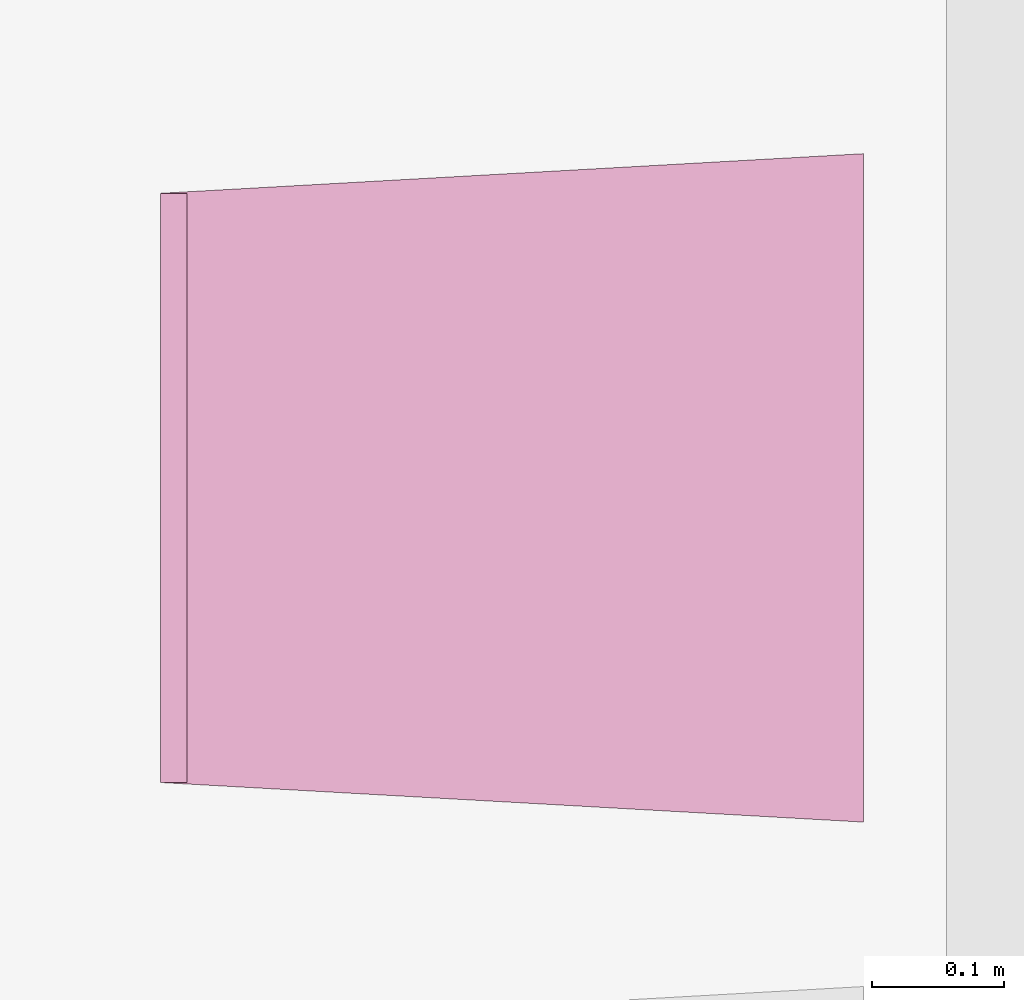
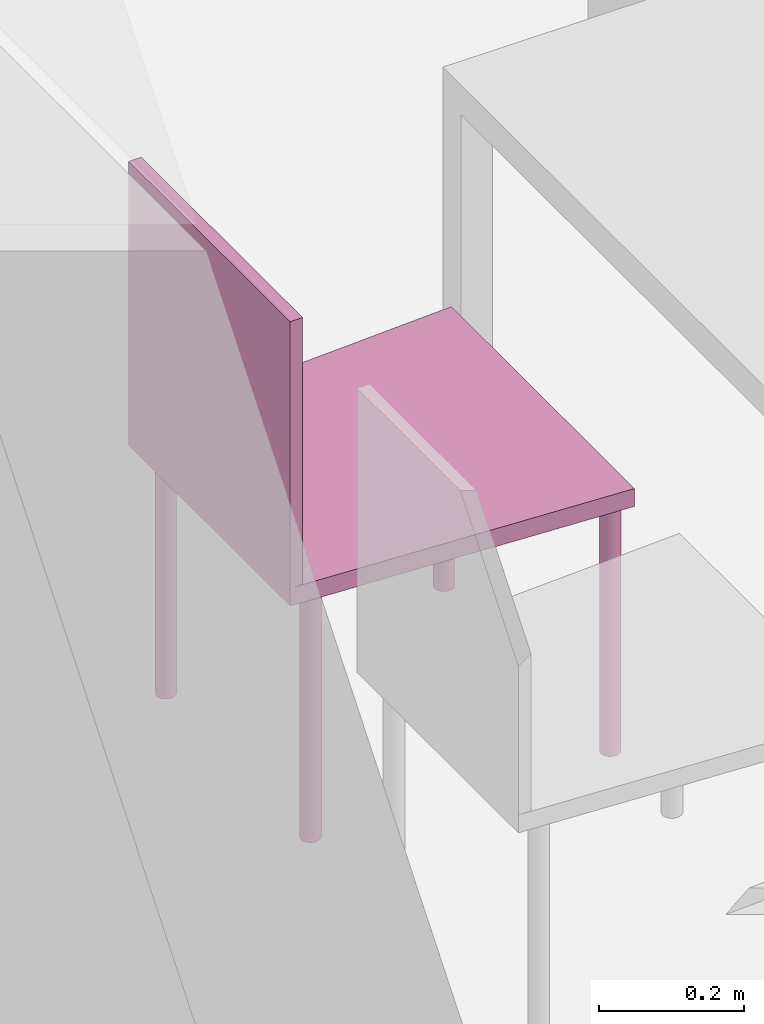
"""IFC4 building model written with IfcOpenShell, lengths in metres."""

from ifc_helpers import new_model, entity, si_unit, converted_unit, derived_unit, frame, origin, place, context, subcontext, project, spatial, faceted_brep, element, save


model = new_model("IFC4")

# Units and contexts
model_context = context("Model", 3, precision=1e-05, world=origin())
body_context = subcontext(model_context, "Body", "Model", "MODEL_VIEW")
ifc_project = project(units=[si_unit("LENGTHUNIT", "METRE"), si_unit("AREAUNIT", "SQUARE_METRE"), si_unit("VOLUMEUNIT", "CUBIC_METRE"), si_unit("MASSUNIT", "GRAM", prefix="KILO"), converted_unit("PLANEANGLEUNIT", "DEGREE", entity("IfcPlaneAngleMeasure", 0.0174532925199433), si_unit("PLANEANGLEUNIT", "RADIAN"), dimensions=[0, 0, 0, 0, 0, 0, 0]), derived_unit("THERMALTRANSMITTANCEUNIT", [(si_unit("POWERUNIT", "WATT"), 1), (si_unit("THERMODYNAMICTEMPERATUREUNIT", "KELVIN"), -1), (si_unit("LENGTHUNIT", "METRE"), -2)]), derived_unit("VOLUMETRICFLOWRATEUNIT", [(si_unit("LENGTHUNIT", "METRE"), 3), (converted_unit("TIMEUNIT", "hour", entity("IfcTimeMeasure", 3600.0), si_unit("TIMEUNIT", "SECOND"), dimensions=[0, 0, 1, 0, 0, 0, 0]), -1), (si_unit("LENGTHUNIT", "METRE"), -1)])], contexts=[model_context])

# Building, storeys
building_placement = place(None, origin())
building = spatial("IfcBuilding", under=ifc_project, at=building_placement, Name="HABITATGE PLURIFAMILIAR", CompositionType="ELEMENT")
storey_1_placement = place(building_placement, frame((0.0, 0.0, 3.35)))
storey_1 = spatial("IfcBuildingStorey", under=building, at=storey_1_placement, Name="PLANTA  ALTELL", CompositionType="ELEMENT", Elevation=3.35)
storey_2_placement = place(storey_1_placement, origin())
storey_2 = spatial("IfcBuildingStorey", under=storey_1, at=storey_2_placement, Name="NOU", CompositionType="PARTIAL")

# Furniture
furniture_placement = place(storey_2_placement, frame((399.386206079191, 16.3203721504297, 0.0499839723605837)))
element("IfcFurniture", 1, at=furniture_placement, inside=storey_2, Name="Cadira confident_PA", context=body_context, shape_type="Brep", body=[
    faceted_brep([(0.507575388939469, 0.0391636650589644, 0.0), (0.504980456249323, 0.0389479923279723, 0.0), (0.502462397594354, 0.0382849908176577, 0.0), (0.500097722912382, 0.0371948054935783, 0.0), (0.497958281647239, 0.0357105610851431, 0.0), (0.496109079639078, 0.0338773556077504, 0.0), (0.494606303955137, 0.0317508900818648, 0.0), (0.493495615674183, 0.0293957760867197, 0.0), (0.492810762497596, 0.0268835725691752, 0.0), (0.492572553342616, 0.0242906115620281, 0.0), (0.492788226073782, 0.0216956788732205, 0.0), (0.493451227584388, 0.019177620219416, 0.0), (0.494541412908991, 0.0168129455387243, 0.0), (0.496025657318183, 0.0146735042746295, 0.0), (0.497858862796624, 0.0128243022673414, 0.0), (0.499985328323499, 0.0113215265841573, 0.0), (0.502340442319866, 0.0102108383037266, 0.0), (0.504852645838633, 0.00952598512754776, 0.0), (0.507445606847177, 0.00928777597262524, 0.0), (0.510040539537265, 0.00950344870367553, 0.0), (0.512558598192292, 0.010166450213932, 0.0), (0.514923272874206, 0.0112566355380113, 0.0), (0.517062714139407, 0.0127408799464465, 0.0), (0.518911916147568, 0.0145740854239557, 0.0), (0.520414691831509, 0.0167005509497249, 0.0), (0.521525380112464, 0.0190556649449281, 0.0), (0.52221023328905, 0.0215678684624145, 0.0), (0.522448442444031, 0.0241608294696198, 0.0), (0.522232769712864, 0.0267557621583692, 0.0), (0.521569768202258, 0.0292738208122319, 0.0), (0.520479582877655, 0.0316384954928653, 0.0), (0.518995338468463, 0.0337779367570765, 0.0), (0.517162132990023, 0.0356271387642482, 0.0), (0.515035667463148, 0.0371299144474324, 0.0), (0.51268055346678, 0.038240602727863, 0.0), (0.510168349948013, 0.0389254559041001, 0.0), (0.507575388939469, 0.0391636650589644, 0.448281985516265), (0.510168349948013, 0.0389254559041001, 0.448281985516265), (0.51268055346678, 0.038240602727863, 0.448281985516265), (0.515035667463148, 0.0371299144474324, 0.448281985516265), (0.517162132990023, 0.0356271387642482, 0.448281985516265), (0.518995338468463, 0.0337779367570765, 0.448281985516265), (0.520479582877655, 0.0316384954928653, 0.448281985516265), (0.521569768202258, 0.0292738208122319, 0.448281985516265), (0.522232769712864, 0.0267557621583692, 0.448281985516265), (0.522448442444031, 0.0241608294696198, 0.448281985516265), (0.52221023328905, 0.0215678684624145, 0.448281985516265), (0.521525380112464, 0.0190556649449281, 0.448281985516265), (0.520414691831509, 0.0167005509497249, 0.448281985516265), (0.518911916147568, 0.0145740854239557, 0.448281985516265), (0.517062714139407, 0.0127408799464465, 0.448281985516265), (0.514923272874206, 0.0112566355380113, 0.448281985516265), (0.512558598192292, 0.010166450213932, 0.448281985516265), (0.510040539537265, 0.00950344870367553, 0.448281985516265), (0.507445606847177, 0.00928777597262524, 0.448281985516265), (0.504852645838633, 0.00952598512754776, 0.448281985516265), (0.502340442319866, 0.0102108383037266, 0.448281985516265), (0.499985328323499, 0.0113215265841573, 0.448281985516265), (0.497858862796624, 0.0128243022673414, 0.448281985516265), (0.496025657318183, 0.0146735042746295, 0.448281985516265), (0.494541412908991, 0.0168129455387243, 0.448281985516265), (0.493451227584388, 0.019177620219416, 0.448281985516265), (0.492788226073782, 0.0216956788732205, 0.448281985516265), (0.492572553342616, 0.0242906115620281, 0.448281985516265), (0.492810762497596, 0.0268835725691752, 0.448281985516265), (0.493495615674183, 0.0293957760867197, 0.448281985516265), (0.494606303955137, 0.0317508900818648, 0.448281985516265), (0.496109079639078, 0.0338773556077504, 0.448281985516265), (0.497958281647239, 0.0357105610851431, 0.448281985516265), (0.500097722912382, 0.0371948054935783, 0.448281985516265), (0.502462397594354, 0.0382849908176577, 0.448281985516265), (0.504980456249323, 0.0389479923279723, 0.448281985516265)], [[[0, 1, 2, 3, 4, 5, 6, 7, 8, 9, 10, 11, 12, 13, 14, 15, 16, 17, 18, 19, 20, 21, 22, 23, 24, 25, 26, 27, 28, 29, 30, 31, 32, 33, 34, 35]], [[36, 37, 38, 39, 40, 41, 42, 43, 44, 45, 46, 47, 48, 49, 50, 51, 52, 53, 54, 55, 56, 57, 58, 59, 60, 61, 62, 63, 64, 65, 66, 67, 68, 69, 70, 71]], [[1, 0, 36, 71]], [[2, 1, 71, 70]], [[3, 2, 70, 69]], [[4, 3, 69, 68]], [[5, 4, 68, 67]], [[6, 5, 67, 66]], [[7, 6, 66, 65]], [[8, 7, 65, 64]], [[9, 8, 64, 63]], [[10, 9, 63, 62]], [[11, 10, 62, 61]], [[12, 11, 61, 60]], [[13, 12, 60, 59]], [[14, 13, 59, 58]], [[15, 14, 58, 57]], [[16, 15, 57, 56]], [[17, 16, 56, 55]], [[18, 17, 55, 54]], [[19, 18, 54, 53]], [[20, 19, 53, 52]], [[21, 20, 52, 51]], [[22, 21, 51, 50]], [[23, 22, 50, 49]], [[24, 23, 49, 48]], [[25, 24, 48, 47]], [[26, 25, 47, 46]], [[27, 26, 46, 45]], [[28, 27, 45, 44]], [[29, 28, 44, 43]], [[30, 29, 43, 42]], [[31, 30, 42, 41]], [[32, 31, 41, 40]], [[33, 32, 40, 39]], [[34, 33, 39, 38]], [[35, 34, 38, 37]], [[0, 35, 37, 36]]], orient=[[False], [False], [False], [False], [False], [False], [False], [False], [False], [False], [False], [False], [False], [False], [False], [False], [False], [False], [False], [False], [False], [False], [False], [False], [False], [False], [False], [False], [False], [False], [False], [False], [False], [False], [False], [False], [False], [False]]),
    faceted_brep([(0.0451683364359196, 0.0668016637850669, 0.0), (0.0425734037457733, 0.0665859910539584, 0.0), (0.0400553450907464, 0.065922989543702, 0.0), (0.0376906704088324, 0.0648328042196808, 0.0), (0.0355512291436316, 0.0633485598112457, 0.0), (0.0337020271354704, 0.0615153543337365, 0.0), (0.0321992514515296, 0.0593888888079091, 0.0), (0.0310885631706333, 0.057033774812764, 0.0), (0.0304037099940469, 0.0545215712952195, 0.0), (0.030165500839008, 0.0519286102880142, 0.0), (0.0303811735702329, 0.0493336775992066, 0.0), (0.0310441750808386, 0.0468156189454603, 0.0), (0.0321343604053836, 0.0444509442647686, 0.0), (0.0336186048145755, 0.0423115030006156, 0.0), (0.035451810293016, 0.0404623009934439, 0.0), (0.0375782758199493, 0.0389595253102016, 0.0), (0.0399333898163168, 0.0378488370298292, 0.0), (0.0424455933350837, 0.0371639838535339, 0.0), (0.0450385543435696, 0.0369257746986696, 0.0), (0.0476334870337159, 0.0371414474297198, 0.0), (0.0501515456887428, 0.0378044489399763, 0.0), (0.0525162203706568, 0.0388946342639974, 0.0), (0.0546556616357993, 0.0403788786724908, 0.0), (0.0565048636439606, 0.0422120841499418, 0.0), (0.0580076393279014, 0.0443385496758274, 0.0), (0.0591183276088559, 0.0466936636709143, 0.0), (0.0598031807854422, 0.0492058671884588, 0.0), (0.060041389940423, 0.0517988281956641, 0.0), (0.0598257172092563, 0.0543937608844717, 0.0), (0.0591627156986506, 0.056911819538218, 0.0), (0.0580725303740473, 0.0592764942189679, 0.0), (0.0565882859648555, 0.0614159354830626, 0.0), (0.054755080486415, 0.0632651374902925, 0.0), (0.0526286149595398, 0.0647679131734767, 0.0), (0.0502735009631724, 0.0658786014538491, 0.0), (0.0477612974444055, 0.0665634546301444, 0.0), (0.0451683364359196, 0.0668016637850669, 0.448281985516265), (0.0477612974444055, 0.0665634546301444, 0.448281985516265), (0.0502735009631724, 0.0658786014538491, 0.448281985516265), (0.0526286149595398, 0.0647679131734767, 0.448281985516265), (0.054755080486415, 0.0632651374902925, 0.448281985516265), (0.0565882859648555, 0.0614159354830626, 0.448281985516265), (0.0580725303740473, 0.0592764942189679, 0.448281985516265), (0.0591627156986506, 0.056911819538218, 0.448281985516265), (0.0598257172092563, 0.0543937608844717, 0.448281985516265), (0.060041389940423, 0.0517988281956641, 0.448281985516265), (0.0598031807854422, 0.0492058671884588, 0.448281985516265), (0.0591183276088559, 0.0466936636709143, 0.448281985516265), (0.0580076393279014, 0.0443385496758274, 0.448281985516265), (0.0565048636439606, 0.0422120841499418, 0.448281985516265), (0.0546556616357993, 0.0403788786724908, 0.448281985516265), (0.0525162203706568, 0.0388946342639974, 0.448281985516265), (0.0501515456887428, 0.0378044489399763, 0.448281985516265), (0.0476334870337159, 0.0371414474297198, 0.448281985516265), (0.0450385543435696, 0.0369257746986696, 0.448281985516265), (0.0424455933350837, 0.0371639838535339, 0.448281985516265), (0.0399333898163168, 0.0378488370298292, 0.448281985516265), (0.0375782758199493, 0.0389595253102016, 0.448281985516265), (0.035451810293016, 0.0404623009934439, 0.448281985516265), (0.0336186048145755, 0.0423115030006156, 0.448281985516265), (0.0321343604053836, 0.0444509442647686, 0.448281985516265), (0.0310441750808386, 0.0468156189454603, 0.448281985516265), (0.0303811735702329, 0.0493336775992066, 0.448281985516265), (0.030165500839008, 0.0519286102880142, 0.448281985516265), (0.0304037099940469, 0.0545215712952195, 0.448281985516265), (0.0310885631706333, 0.057033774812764, 0.448281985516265), (0.0321992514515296, 0.0593888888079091, 0.448281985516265), (0.0337020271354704, 0.0615153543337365, 0.448281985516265), (0.0355512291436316, 0.0633485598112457, 0.448281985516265), (0.0376906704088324, 0.0648328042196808, 0.448281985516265), (0.0400553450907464, 0.065922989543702, 0.448281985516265), (0.0425734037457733, 0.0665859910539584, 0.448281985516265)], [[[0, 1, 2, 3, 4, 5, 6, 7, 8, 9, 10, 11, 12, 13, 14, 15, 16, 17, 18, 19, 20, 21, 22, 23, 24, 25, 26, 27, 28, 29, 30, 31, 32, 33, 34, 35]], [[36, 37, 38, 39, 40, 41, 42, 43, 44, 45, 46, 47, 48, 49, 50, 51, 52, 53, 54, 55, 56, 57, 58, 59, 60, 61, 62, 63, 64, 65, 66, 67, 68, 69, 70, 71]], [[1, 0, 36, 71]], [[2, 1, 71, 70]], [[3, 2, 70, 69]], [[4, 3, 69, 68]], [[5, 4, 68, 67]], [[6, 5, 67, 66]], [[7, 6, 66, 65]], [[8, 7, 65, 64]], [[9, 8, 64, 63]], [[10, 9, 63, 62]], [[11, 10, 62, 61]], [[12, 11, 61, 60]], [[13, 12, 60, 59]], [[14, 13, 59, 58]], [[15, 14, 58, 57]], [[16, 15, 57, 56]], [[17, 16, 56, 55]], [[18, 17, 55, 54]], [[19, 18, 54, 53]], [[20, 19, 53, 52]], [[21, 20, 52, 51]], [[22, 21, 51, 50]], [[23, 22, 50, 49]], [[24, 23, 49, 48]], [[25, 24, 48, 47]], [[26, 25, 47, 46]], [[27, 26, 46, 45]], [[28, 27, 45, 44]], [[29, 28, 44, 43]], [[30, 29, 43, 42]], [[31, 30, 42, 41]], [[32, 31, 41, 40]], [[33, 32, 40, 39]], [[34, 33, 39, 38]], [[35, 34, 38, 37]], [[0, 35, 37, 36]]], orient=[[False], [False], [False], [False], [False], [False], [False], [False], [False], [False], [False], [False], [False], [False], [False], [False], [False], [False], [False], [False], [False], [False], [False], [False], [False], [False], [False], [False], [False], [False], [False], [False], [False], [False], [False], [False], [False], [False]]),
    faceted_brep([(0.50757538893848, 0.499163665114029, 0.0), (0.504980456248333, 0.49894799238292, 0.0), (0.502462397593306, 0.498284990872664, 0.0), (0.500097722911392, 0.497194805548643, 0.0), (0.49795828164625, 0.495710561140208, 0.0), (0.49610907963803, 0.493877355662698, 0.0), (0.494606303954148, 0.491750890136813, 0.0), (0.493495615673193, 0.489395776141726, 0.0), (0.492810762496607, 0.486883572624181, 0.0), (0.492572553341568, 0.484290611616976, 0.0), (0.492788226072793, 0.481695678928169, 0.0), (0.493451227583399, 0.479177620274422, 0.0), (0.494541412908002, 0.476812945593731, 0.0), (0.496025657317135, 0.474673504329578, 0.0), (0.497858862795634, 0.472824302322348, 0.0), (0.499985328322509, 0.471321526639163, 0.0), (0.502340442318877, 0.470210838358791, 0.0), (0.504852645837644, 0.469525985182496, 0.0), (0.507445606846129, 0.469287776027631, 0.0), (0.510040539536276, 0.469503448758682, 0.0), (0.512558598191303, 0.470166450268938, 0.0), (0.514923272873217, 0.471256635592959, 0.0), (0.517062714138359, 0.472740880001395, 0.0), (0.518911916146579, 0.474574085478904, 0.0), (0.520414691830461, 0.476700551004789, 0.0), (0.521525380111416, 0.479055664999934, 0.0), (0.522210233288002, 0.481567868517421, 0.0), (0.522448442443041, 0.484160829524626, 0.0), (0.522232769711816, 0.486755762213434, 0.0), (0.521569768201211, 0.489273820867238, 0.0), (0.520479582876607, 0.491638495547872, 0.0), (0.518995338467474, 0.493777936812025, 0.0), (0.517162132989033, 0.495627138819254, 0.0), (0.5150356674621, 0.497129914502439, 0.0), (0.512680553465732, 0.498240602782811, 0.0), (0.510168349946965, 0.498925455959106, 0.0), (0.50757538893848, 0.499163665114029, 0.448281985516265), (0.510168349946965, 0.498925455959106, 0.448281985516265), (0.512680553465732, 0.498240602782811, 0.448281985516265), (0.5150356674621, 0.497129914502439, 0.448281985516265), (0.517162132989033, 0.495627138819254, 0.448281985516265), (0.518995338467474, 0.493777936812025, 0.448281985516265), (0.520479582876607, 0.491638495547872, 0.448281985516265), (0.521569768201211, 0.489273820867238, 0.448281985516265), (0.522232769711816, 0.486755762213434, 0.448281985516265), (0.522448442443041, 0.484160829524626, 0.448281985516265), (0.522210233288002, 0.481567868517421, 0.448281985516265), (0.521525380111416, 0.479055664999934, 0.448281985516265), (0.520414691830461, 0.476700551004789, 0.448281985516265), (0.518911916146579, 0.474574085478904, 0.448281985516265), (0.517062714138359, 0.472740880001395, 0.448281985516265), (0.514923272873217, 0.471256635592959, 0.448281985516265), (0.512558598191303, 0.470166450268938, 0.448281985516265), (0.510040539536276, 0.469503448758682, 0.448281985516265), (0.507445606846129, 0.469287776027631, 0.448281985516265), (0.504852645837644, 0.469525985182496, 0.448281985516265), (0.502340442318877, 0.470210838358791, 0.448281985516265), (0.499985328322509, 0.471321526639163, 0.448281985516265), (0.497858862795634, 0.472824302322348, 0.448281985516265), (0.496025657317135, 0.474673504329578, 0.448281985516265), (0.494541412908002, 0.476812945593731, 0.448281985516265), (0.493451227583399, 0.479177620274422, 0.448281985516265), (0.492788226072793, 0.481695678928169, 0.448281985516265), (0.492572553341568, 0.484290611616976, 0.448281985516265), (0.492810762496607, 0.486883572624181, 0.448281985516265), (0.493495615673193, 0.489395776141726, 0.448281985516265), (0.494606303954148, 0.491750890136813, 0.448281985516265), (0.49610907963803, 0.493877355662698, 0.448281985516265), (0.49795828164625, 0.495710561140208, 0.448281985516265), (0.500097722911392, 0.497194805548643, 0.448281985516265), (0.502462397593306, 0.498284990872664, 0.448281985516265), (0.504980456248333, 0.49894799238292, 0.448281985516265)], [[[0, 1, 2, 3, 4, 5, 6, 7, 8, 9, 10, 11, 12, 13, 14, 15, 16, 17, 18, 19, 20, 21, 22, 23, 24, 25, 26, 27, 28, 29, 30, 31, 32, 33, 34, 35]], [[36, 37, 38, 39, 40, 41, 42, 43, 44, 45, 46, 47, 48, 49, 50, 51, 52, 53, 54, 55, 56, 57, 58, 59, 60, 61, 62, 63, 64, 65, 66, 67, 68, 69, 70, 71]], [[1, 0, 36, 71]], [[2, 1, 71, 70]], [[3, 2, 70, 69]], [[4, 3, 69, 68]], [[5, 4, 68, 67]], [[6, 5, 67, 66]], [[7, 6, 66, 65]], [[8, 7, 65, 64]], [[9, 8, 64, 63]], [[10, 9, 63, 62]], [[11, 10, 62, 61]], [[12, 11, 61, 60]], [[13, 12, 60, 59]], [[14, 13, 59, 58]], [[15, 14, 58, 57]], [[16, 15, 57, 56]], [[17, 16, 56, 55]], [[18, 17, 55, 54]], [[19, 18, 54, 53]], [[20, 19, 53, 52]], [[21, 20, 52, 51]], [[22, 21, 51, 50]], [[23, 22, 50, 49]], [[24, 23, 49, 48]], [[25, 24, 48, 47]], [[26, 25, 47, 46]], [[27, 26, 46, 45]], [[28, 27, 45, 44]], [[29, 28, 44, 43]], [[30, 29, 43, 42]], [[31, 30, 42, 41]], [[32, 31, 41, 40]], [[33, 32, 40, 39]], [[34, 33, 39, 38]], [[35, 34, 38, 37]], [[0, 35, 37, 36]]], orient=[[False], [False], [False], [False], [False], [False], [False], [False], [False], [False], [False], [False], [False], [False], [False], [False], [False], [False], [False], [False], [False], [False], [False], [False], [False], [False], [False], [False], [False], [False], [False], [False], [False], [False], [False], [False], [False], [False]]),
    faceted_brep([(0.0451683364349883, 0.466801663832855, 0.0), (0.0425734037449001, 0.466585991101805, 0.0), (0.0400553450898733, 0.465922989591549, 0.0), (0.0376906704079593, 0.464832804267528, 0.0), (0.0355512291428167, 0.463348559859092, 0.0), (0.0337020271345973, 0.461515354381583, 0.0), (0.0321992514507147, 0.459388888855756, 0.0), (0.0310885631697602, 0.457033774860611, 0.0), (0.0304037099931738, 0.454521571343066, 0.0), (0.0301655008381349, 0.451928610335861, 0.0), (0.0303811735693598, 0.449333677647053, 0.0), (0.0310441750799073, 0.446815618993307, 0.0), (0.0321343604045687, 0.444450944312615, 0.0), (0.0336186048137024, 0.442311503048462, 0.0), (0.0354518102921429, 0.440462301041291, 0.0), (0.0375782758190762, 0.438959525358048, 0.0), (0.0399333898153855, 0.437848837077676, 0.0), (0.0424455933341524, 0.437163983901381, 0.0), (0.0450385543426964, 0.436925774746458, 0.0), (0.0476334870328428, 0.437141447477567, 0.0), (0.0501515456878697, 0.437804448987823, 0.0), (0.0525162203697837, 0.438894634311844, 0.0), (0.0546556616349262, 0.440378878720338, 0.0), (0.0565048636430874, 0.442212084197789, 0.0), (0.0580076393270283, 0.444338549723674, 0.0), (0.0591183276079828, 0.446693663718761, 0.0), (0.0598031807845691, 0.449205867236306, 0.0), (0.0600413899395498, 0.451798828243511, 0.0), (0.0598257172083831, 0.454393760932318, 0.0), (0.0591627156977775, 0.456911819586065, 0.0), (0.0580725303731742, 0.459276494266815, 0.0), (0.0565882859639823, 0.461415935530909, 0.0), (0.0547550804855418, 0.463265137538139, 0.0), (0.0526286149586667, 0.464767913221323, 0.0), (0.0502735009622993, 0.465878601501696, 0.0), (0.0477612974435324, 0.466563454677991, 0.0), (0.0451683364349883, 0.466801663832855, 0.448281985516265), (0.0477612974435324, 0.466563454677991, 0.448281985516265), (0.0502735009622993, 0.465878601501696, 0.448281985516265), (0.0526286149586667, 0.464767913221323, 0.448281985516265), (0.0547550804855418, 0.463265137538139, 0.448281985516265), (0.0565882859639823, 0.461415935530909, 0.448281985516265), (0.0580725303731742, 0.459276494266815, 0.448281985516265), (0.0591627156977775, 0.456911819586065, 0.448281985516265), (0.0598257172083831, 0.454393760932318, 0.448281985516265), (0.0600413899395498, 0.451798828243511, 0.448281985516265), (0.0598031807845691, 0.449205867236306, 0.448281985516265), (0.0591183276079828, 0.446693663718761, 0.448281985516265), (0.0580076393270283, 0.444338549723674, 0.448281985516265), (0.0565048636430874, 0.442212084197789, 0.448281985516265), (0.0546556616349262, 0.440378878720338, 0.448281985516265), (0.0525162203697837, 0.438894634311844, 0.448281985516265), (0.0501515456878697, 0.437804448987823, 0.448281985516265), (0.0476334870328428, 0.437141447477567, 0.448281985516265), (0.0450385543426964, 0.436925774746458, 0.448281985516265), (0.0424455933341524, 0.437163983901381, 0.448281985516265), (0.0399333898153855, 0.437848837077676, 0.448281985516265), (0.0375782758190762, 0.438959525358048, 0.448281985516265), (0.0354518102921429, 0.440462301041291, 0.448281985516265), (0.0336186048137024, 0.442311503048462, 0.448281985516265), (0.0321343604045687, 0.444450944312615, 0.448281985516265), (0.0310441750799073, 0.446815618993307, 0.448281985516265), (0.0303811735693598, 0.449333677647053, 0.448281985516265), (0.0301655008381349, 0.451928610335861, 0.448281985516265), (0.0304037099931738, 0.454521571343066, 0.448281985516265), (0.0310885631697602, 0.457033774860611, 0.448281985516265), (0.0321992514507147, 0.459388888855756, 0.448281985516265), (0.0337020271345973, 0.461515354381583, 0.448281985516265), (0.0355512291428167, 0.463348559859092, 0.448281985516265), (0.0376906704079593, 0.464832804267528, 0.448281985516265), (0.0400553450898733, 0.465922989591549, 0.448281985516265), (0.0425734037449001, 0.466585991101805, 0.448281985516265)], [[[0, 1, 2, 3, 4, 5, 6, 7, 8, 9, 10, 11, 12, 13, 14, 15, 16, 17, 18, 19, 20, 21, 22, 23, 24, 25, 26, 27, 28, 29, 30, 31, 32, 33, 34, 35]], [[36, 37, 38, 39, 40, 41, 42, 43, 44, 45, 46, 47, 48, 49, 50, 51, 52, 53, 54, 55, 56, 57, 58, 59, 60, 61, 62, 63, 64, 65, 66, 67, 68, 69, 70, 71]], [[1, 0, 36, 71]], [[2, 1, 71, 70]], [[3, 2, 70, 69]], [[4, 3, 69, 68]], [[5, 4, 68, 67]], [[6, 5, 67, 66]], [[7, 6, 66, 65]], [[8, 7, 65, 64]], [[9, 8, 64, 63]], [[10, 9, 63, 62]], [[11, 10, 62, 61]], [[12, 11, 61, 60]], [[13, 12, 60, 59]], [[14, 13, 59, 58]], [[15, 14, 58, 57]], [[16, 15, 57, 56]], [[17, 16, 56, 55]], [[18, 17, 55, 54]], [[19, 18, 54, 53]], [[20, 19, 53, 52]], [[21, 20, 52, 51]], [[22, 21, 51, 50]], [[23, 22, 50, 49]], [[24, 23, 49, 48]], [[25, 24, 48, 47]], [[26, 25, 47, 46]], [[27, 26, 46, 45]], [[28, 27, 45, 44]], [[29, 28, 44, 43]], [[30, 29, 43, 42]], [[31, 30, 42, 41]], [[32, 31, 41, 40]], [[33, 32, 40, 39]], [[34, 33, 39, 38]], [[35, 34, 38, 37]], [[0, 35, 37, 36]]], orient=[[False], [False], [False], [False], [False], [False], [False], [False], [False], [False], [False], [False], [False], [False], [False], [False], [False], [False], [False], [False], [False], [False], [False], [False], [False], [False], [False], [False], [False], [False], [False], [False], [False], [False], [False], [False], [False], [False]]),
    faceted_brep([(0.0, 0.476514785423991, 0.418281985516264), (0.0, 0.0300000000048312, 0.418281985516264), (0.532607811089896, 0.0, 0.418281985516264), (0.532607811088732, 0.506514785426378, 0.418281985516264), (0.532607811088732, 0.506514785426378, 0.448281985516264), (0.532607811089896, 0.0, 0.448281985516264), (0.0, 0.0300000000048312, 0.448281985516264), (0.0, 0.476514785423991, 0.448281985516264)], [[[0, 1, 2, 3]], [[4, 5, 6, 7]], [[3, 4, 7, 0]], [[2, 5, 4, 3]], [[1, 6, 5, 2]], [[0, 7, 6, 1]]], orient=[[False], [False], [False], [False], [False], [False]]),
    faceted_brep([(0.0200000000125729, 0.476514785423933, 0.448281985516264), (0.0, 0.476514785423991, 0.448281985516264), (0.0, 0.0300000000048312, 0.448281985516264), (0.0200000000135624, 0.0300000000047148, 0.448281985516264), (0.0200000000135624, 0.0300000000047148, 0.898281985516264), (0.0, 0.0300000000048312, 0.898281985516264), (0.0, 0.476514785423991, 0.898281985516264), (0.0200000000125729, 0.476514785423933, 0.898281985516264)], [[[0, 1, 2, 3]], [[4, 5, 6, 7]], [[3, 4, 7, 0]], [[2, 5, 4, 3]], [[1, 6, 5, 2]], [[0, 7, 6, 1]]], orient=[[False], [False], [False], [False], [False], [False]]),
])

save(model, "model.ifc")
